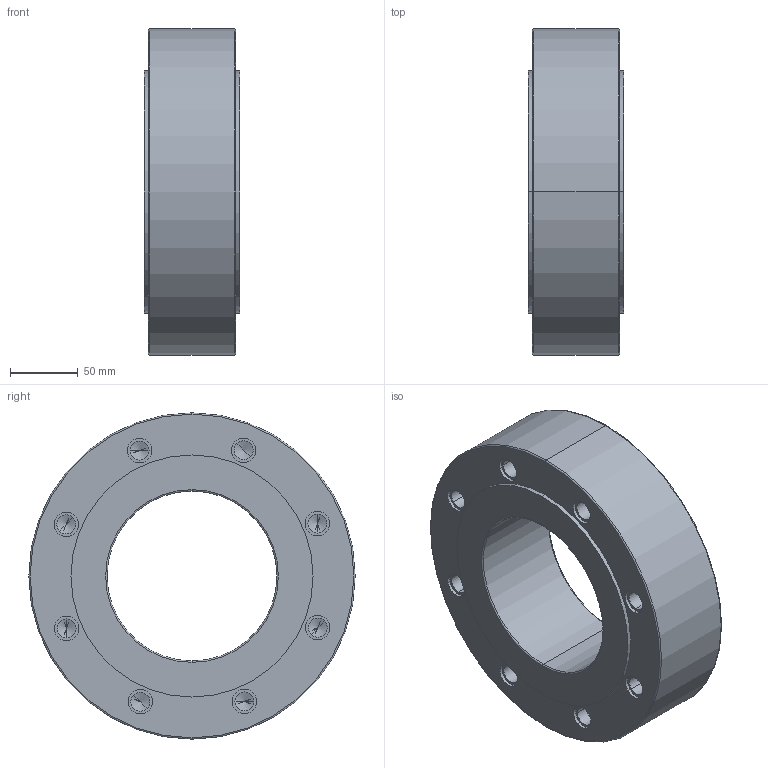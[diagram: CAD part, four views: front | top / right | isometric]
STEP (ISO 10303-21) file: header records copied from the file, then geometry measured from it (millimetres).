
FILE_DESCRIPTION (( 'STEP AP203' ), '1' );
FILE_NAME ('W8_PN06_DN125.STEP', '2012-10-31T07:09:48', ( 'luca.saino' ), ( 'Hewlett-Packard Company' ), 'SwSTEP 2.0', 'SolidWorks 2012', '' );
FILE_SCHEMA (( 'CONFIG_CONTROL_DESIGN' ));
Length unit declared in the file: millimetre
Products named in the file (1): W8_PN06_DN125
Bounding box: 70 x 240 x 240 mm (x, y, z)
Volume: 2127424.6 mm3; surface area: 159564.6 mm2
Topology: 1 solids, 1 shells, 132 faces, 296 edges, 168 vertices
Faces by surface type: cylinder 72, cone 32, plane 20, torus 8
Entity records: 3557 total; most frequent: DIRECTION 690, CARTESIAN_POINT 565, ORIENTED_EDGE 528, AXIS2_PLACEMENT_3D 293, EDGE_CURVE 264, VERTEX_POINT 168, EDGE_LOOP 168, CIRCLE 160
